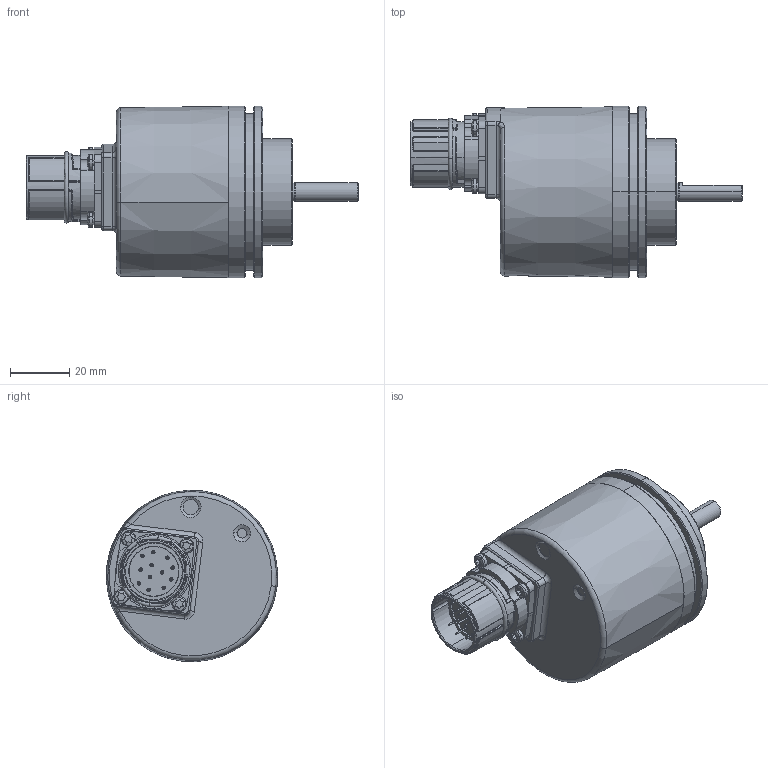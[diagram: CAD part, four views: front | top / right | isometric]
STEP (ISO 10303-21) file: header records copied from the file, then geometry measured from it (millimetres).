
FILE_DESCRIPTION (( 'STEP AP214' ), '1' );
FILE_NAME ('8.F5863.33X3.XXXX.STEP', '2014-05-22T09:08:27', ( 'HeirlerN' ), ( 'Microsoft' ), 'SwSTEP 2.0', 'SolidWorks 2013', '' );
FILE_SCHEMA (( 'AUTOMOTIVE_DESIGN' ));
Length unit declared in the file: millimetre
Products named in the file (1): 8.F5863.33X3.XXXX
Bounding box: 112.3 x 58 x 58 mm (x, y, z)
Volume: 71348.9 mm3; surface area: 52459.7 mm2
Topology: 23 solids, 23 shells, 1368 faces, 3280 edges, 1965 vertices
Faces by surface type: cylinder 551, plane 289, cone 207, torus 158, sphere 96, bspline 67
Entity records: 57134 total; most frequent: CARTESIAN_POINT 10506, DIRECTION 7110, ORIENTED_EDGE 6188, EDGE_CURVE 3094, AXIS2_PLACEMENT_3D 3046, VERTEX_POINT 1897, CIRCLE 1744, EDGE_LOOP 1579
